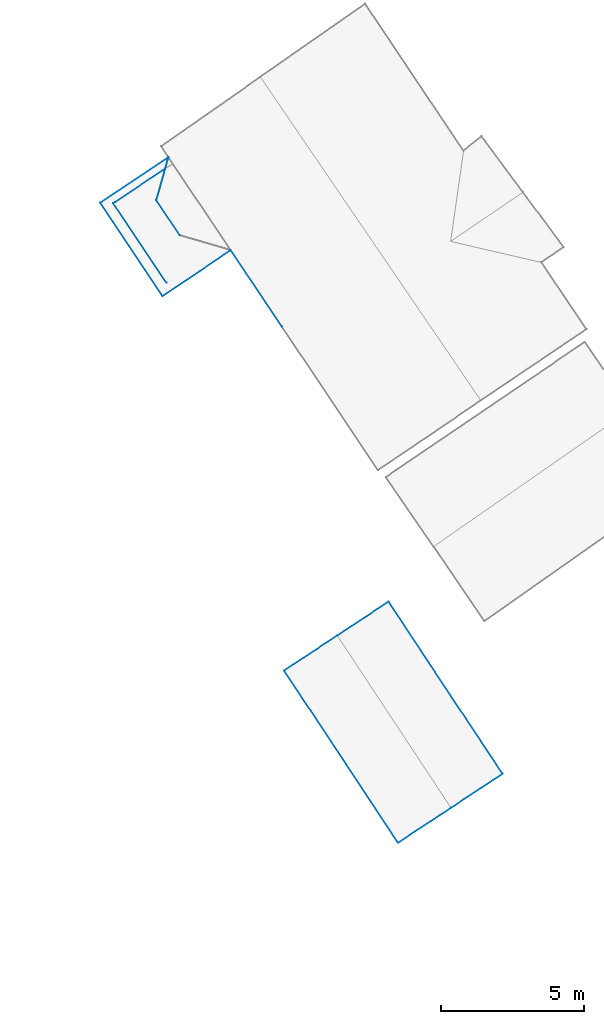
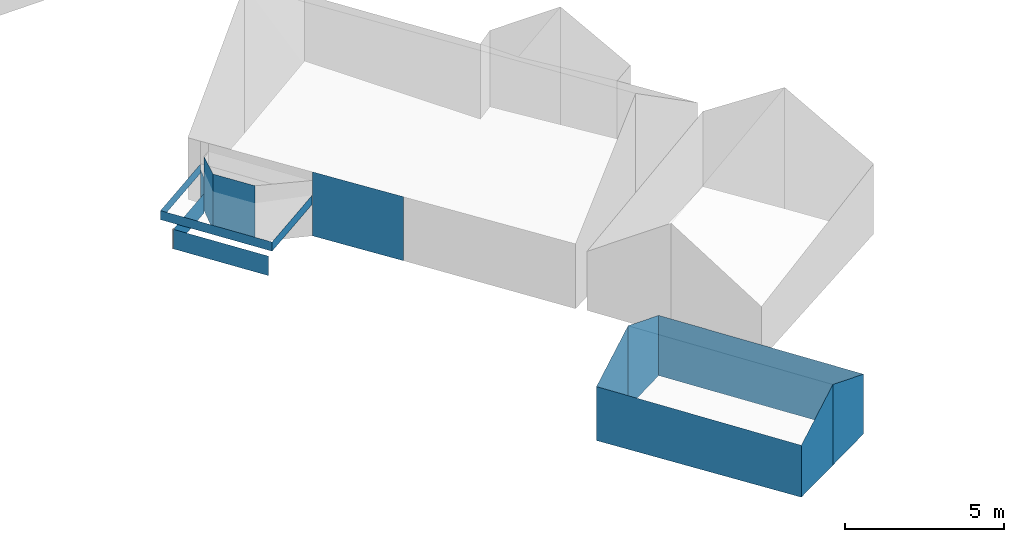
# Not in any storey, part 1 of 57: 20 walls.
"""IFC4 building model written with IfcOpenShell, lengths in metres."""

from ifc_helpers import new_model, entity, si_unit, converted_unit, origin, place, context, subcontext, project, spatial, face_set, surface_model, element, save


model = new_model("IFC4")

# Units and contexts
model_context = context("Model", 3, precision=1e-05, world=origin())
body_context = subcontext(model_context, "Body", "Model", "MODEL_VIEW")
ifc_project = project(units=[converted_unit("PLANEANGLEUNIT", "DEGREE", entity("IfcRatioMeasure", 0.0174532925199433), si_unit("PLANEANGLEUNIT", "RADIAN"), dimensions=[0, 0, 0, 0, 0, 0, 0]), si_unit("AREAUNIT", "SQUARE_METRE"), si_unit("LENGTHUNIT", "METRE")], contexts=[model_context])

# Site, building
site_placement = place(None, origin())
site = spatial("IfcSite", under=ifc_project, at=site_placement, Name="_site")
building_1_placement = place(site_placement, origin())
building_1 = spatial("IfcBuilding", under=site, at=building_1_placement, Name="_building")

# Walls
wall_1_placement = place(building_1_placement, origin())
element("IfcWall", 1, at=wall_1_placement, inside=building_1, Name="Wall", PredefinedType="NOTDEFINED", context=body_context, shape_type="SurfaceModel", body=[
    surface_model("IfcFaceBasedSurfaceModel", [(99.296, 62.768, 113.98), (97.497, 61.579, 114.93), (97.497, 61.579, 111.829), (99.296, 62.768, 111.68)], [face_set([[[0, 1, 2, 3]]])]),
])
wall_2_placement = place(building_1_placement, origin())
element("IfcWall", 2, at=wall_2_placement, inside=building_1, Name="Wall", PredefinedType="NOTDEFINED", context=body_context, shape_type="SurfaceModel", body=[
    surface_model("IfcFaceBasedSurfaceModel", [(95.324, 68.784, 113.98), (99.296, 62.768, 113.98), (99.296, 62.768, 111.68), (95.324, 68.784, 111.664)], [face_set([[[0, 1, 2, 3]]])]),
])
wall_3_placement = place(building_1_placement, origin())
element("IfcWall", 3, at=wall_3_placement, inside=building_1, Name="Wall", PredefinedType="NOTDEFINED", context=body_context, shape_type="SurfaceModel", body=[
    surface_model("IfcFaceBasedSurfaceModel", [(93.525, 67.596, 114.93), (95.324, 68.784, 113.98), (95.324, 68.784, 111.664), (93.525, 67.596, 111.783)], [face_set([[[0, 1, 2, 3]]])]),
])
wall_4_placement = place(building_1_placement, origin())
element("IfcWall", 4, at=wall_4_placement, inside=building_1, Name="Wall", PredefinedType="NOTDEFINED", context=body_context, shape_type="SurfaceModel", body=[
    surface_model("IfcFaceBasedSurfaceModel", [(91.675, 66.378, 113.98), (93.525, 67.596, 114.93), (93.525, 67.596, 111.783), (91.675, 66.378, 111.905)], [face_set([[[0, 1, 2, 3]]])]),
])
wall_5_placement = place(building_1_placement, origin())
element("IfcWall", 5, at=wall_5_placement, inside=building_1, Name="Wall", PredefinedType="NOTDEFINED", context=body_context, shape_type="SurfaceModel", body=[
    surface_model("IfcFaceBasedSurfaceModel", [(95.647, 60.361, 113.98), (91.675, 66.378, 113.98), (91.675, 66.378, 111.905), (95.647, 60.361, 111.984)], [face_set([[[0, 1, 2, 3]]])]),
])
wall_6_placement = place(building_1_placement, origin())
element("IfcWall", 6, at=wall_6_placement, inside=building_1, Name="Wall", PredefinedType="NOTDEFINED", context=body_context, shape_type="SurfaceModel", body=[
    surface_model("IfcFaceBasedSurfaceModel", [(97.497, 61.579, 114.93), (95.647, 60.361, 113.98), (95.647, 60.361, 111.984), (97.497, 61.579, 111.829)], [face_set([[[0, 1, 2, 3]]])]),
])

# Building
building_2_placement = place(site_placement, origin())
building_2 = spatial("IfcBuilding", under=site, at=building_2_placement, Name="_building")

# Walls
wall_7_placement = place(building_2_placement, origin())
element("IfcWall", 7, at=wall_7_placement, inside=building_2, Name="Wall", PredefinedType="NOTDEFINED", context=body_context, shape_type="SurfaceModel", body=[
    surface_model("IfcFaceBasedSurfaceModel", [(87.429, 79.456, 113.09), (85.253, 82.709, 113.09), (85.253, 82.709, 112.74), (87.429, 79.456, 112.74)], [face_set([[[0, 1, 2, 3]]])]),
])
wall_8_placement = place(building_2_placement, origin())
element("IfcWall", 8, at=wall_8_placement, inside=building_2, Name="Wall", PredefinedType="NOTDEFINED", context=body_context, shape_type="SurfaceModel", body=[
    surface_model("IfcFaceBasedSurfaceModel", [(89.807, 81.051, 113.09), (87.429, 79.456, 113.09), (87.429, 79.456, 112.74), (89.807, 81.051, 112.74)], [face_set([[[0, 1, 2, 3]]])]),
])
wall_9_placement = place(building_2_placement, origin())
element("IfcWall", 9, at=wall_9_placement, inside=building_2, Name="Wall", PredefinedType="NOTDEFINED", context=body_context, shape_type="SurfaceModel", body=[
    surface_model("IfcFaceBasedSurfaceModel", [(85.253, 82.709, 113.09), (87.632, 84.304, 113.09), (87.632, 84.304, 112.74), (85.253, 82.709, 112.74)], [face_set([[[0, 1, 2, 3]]])]),
])
wall_10_placement = place(building_2_placement, origin())
element("IfcWall", 10, at=wall_10_placement, inside=building_2, Name="Wall", PredefinedType="NOTDEFINED", context=body_context, shape_type="SurfaceModel", body=[
    surface_model("IfcFaceBasedSurfaceModel", [(87.429, 79.456, 113.09), (85.253, 82.709, 113.09), (85.253, 82.709, 112.74), (87.429, 79.456, 112.74)], [face_set([[[0, 1, 2, 3]]])]),
])
wall_11_placement = place(building_2_placement, origin())
element("IfcWall", 11, at=wall_11_placement, inside=building_2, Name="Wall", PredefinedType="NOTDEFINED", context=body_context, shape_type="SurfaceModel", body=[
    surface_model("IfcFaceBasedSurfaceModel", [(89.807, 81.051, 113.09), (87.429, 79.456, 113.09), (87.429, 79.456, 112.74), (89.807, 81.051, 112.74)], [face_set([[[0, 1, 2, 3]]])]),
])
wall_12_placement = place(building_2_placement, origin())
element("IfcWall", 12, at=wall_12_placement, inside=building_2, Name="Wall", PredefinedType="NOTDEFINED", context=body_context, shape_type="SurfaceModel", body=[
    surface_model("IfcFaceBasedSurfaceModel", [(87.519, 83.901, 112.849), (87.632, 84.305, 112.849), (87.632, 84.305, 111.571), (87.519, 83.901, 111.58)], [face_set([[[0, 1, 2, 3]]])]),
])
wall_13_placement = place(building_2_placement, origin())
element("IfcWall", 13, at=wall_13_placement, inside=building_2, Name="Wall", PredefinedType="NOTDEFINED", context=body_context, shape_type="SurfaceModel", body=[
    surface_model("IfcFaceBasedSurfaceModel", [(87.207, 82.793, 113.76), (87.519, 83.901, 113.659), (87.519, 83.901, 111.58), (87.207, 82.793, 111.608)], [face_set([[[0, 1, 2, 3]]])]),
])
wall_14_placement = place(building_2_placement, origin())
element("IfcWall", 14, at=wall_14_placement, inside=building_2, Name="Wall", PredefinedType="NOTDEFINED", context=body_context, shape_type="SurfaceModel", body=[
    surface_model("IfcFaceBasedSurfaceModel", [(88.029, 81.573, 113.76), (87.207, 82.793, 113.76), (87.207, 82.793, 111.608), (88.029, 81.573, 111.598)], [face_set([[[0, 1, 2, 3]]])]),
])
wall_15_placement = place(building_2_placement, origin())
element("IfcWall", 15, at=wall_15_placement, inside=building_2, Name="Wall", PredefinedType="NOTDEFINED", context=body_context, shape_type="SurfaceModel", body=[
    surface_model("IfcFaceBasedSurfaceModel", [(85.768, 82.731, 111.475), (87.519, 83.901, 111.475), (87.519, 83.901, 112.225), (85.768, 82.731, 112.225)], [face_set([[[0, 1, 2, 3]]])]),
])
wall_16_placement = place(building_2_placement, origin())
element("IfcWall", 16, at=wall_16_placement, inside=building_2, Name="Wall", PredefinedType="NOTDEFINED", context=body_context, shape_type="SurfaceModel", body=[
    surface_model("IfcFaceBasedSurfaceModel", [(87.56, 79.919, 111.475), (85.703, 82.688, 111.475), (85.703, 82.688, 112.225), (87.56, 79.919, 112.225)], [face_set([[[0, 1, 2, 3]]])]),
])
wall_17_placement = place(building_2_placement, origin())
element("IfcWall", 17, at=wall_17_placement, inside=building_2, Name="Wall", PredefinedType="NOTDEFINED", context=body_context, shape_type="SurfaceModel", body=[
    surface_model("IfcFaceBasedSurfaceModel", [(85.768, 82.731, 111.475), (87.519, 83.901, 111.475), (87.519, 83.901, 112.225), (85.768, 82.731, 112.225)], [face_set([[[0, 1, 2, 3]]])]),
])
wall_18_placement = place(building_2_placement, origin())
element("IfcWall", 18, at=wall_18_placement, inside=building_2, Name="Wall", PredefinedType="NOTDEFINED", context=body_context, shape_type="SurfaceModel", body=[
    surface_model("IfcFaceBasedSurfaceModel", [(87.56, 79.919, 111.475), (85.703, 82.688, 111.475), (85.703, 82.688, 112.225), (87.56, 79.919, 112.225)], [face_set([[[0, 1, 2, 3]]])]),
])
wall_19_placement = place(building_2_placement, origin())
element("IfcWall", 19, at=wall_19_placement, inside=building_2, Name="Wall", PredefinedType="NOTDEFINED", context=body_context, shape_type="SurfaceModel", body=[
    surface_model("IfcFaceBasedSurfaceModel", [(85.253, 82.709, 113.09), (87.632, 84.304, 113.09), (87.632, 84.304, 112.74), (85.253, 82.709, 112.74)], [face_set([[[0, 1, 2, 3]]])]),
])

# Building
building_3_placement = place(site_placement, origin())
building_3 = spatial("IfcBuilding", under=site, at=building_3_placement, Name="_building")

# Wall
wall_20_placement = place(building_3_placement, origin())
element("IfcWall", 20, at=wall_20_placement, inside=building_3, Name="Wall", PredefinedType="NOTDEFINED", context=body_context, shape_type="SurfaceModel", body=[
    surface_model("IfcFaceBasedSurfaceModel", [(91.595, 78.388, 114.022), (89.811, 81.05, 113.992), (89.811, 81.05, 111.53), (91.595, 78.388, 111.561)], [face_set([[[0, 1, 2, 3]]])]),
])

save(model, "model.ifc")
